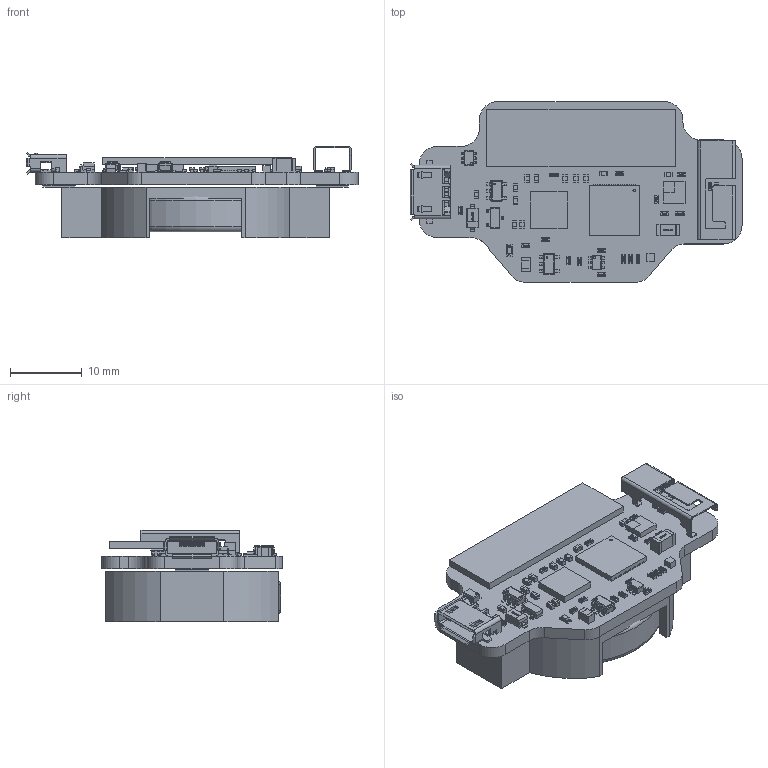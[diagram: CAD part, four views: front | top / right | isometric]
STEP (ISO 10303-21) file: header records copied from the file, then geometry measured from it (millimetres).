
FILE_DESCRIPTION(('Open CASCADE Model'),'2;1');
FILE_NAME('Open CASCADE Shape Model','2019-02-26T11:08:56',('Author'),( 'Open CASCADE'),'Open CASCADE STEP processor 6.8','Open CASCADE 6.8' ,'Unknown');
FILE_SCHEMA(('AUTOMOTIVE_DESIGN { 1 0 10303 214 1 1 1 1 }'));
Products named in the file (1): PCB
Bounding box: 46.21 x 25.15 x 12.68 mm (x, y, z)
Volume: 4226.4 mm3; surface area: 7160.4 mm2
Topology: 104 solids, 2174 shells, 4177 faces, 16822 edges, 14897 vertices
Faces by surface type: plane 3280, bspline 579, cylinder 300, sphere 16, torus 2
Full cylindrical faces by diameter (mm): 24.384 x1
Entity records: 249004 total; most frequent: CARTESIAN_POINT 102351, DIRECTION 22276, ORIENTED_EDGE 21954, EDGE_CURVE 16806, VERTEX_POINT 14897, LINE 13686, VECTOR 13686, FACE_BOUND 4361
